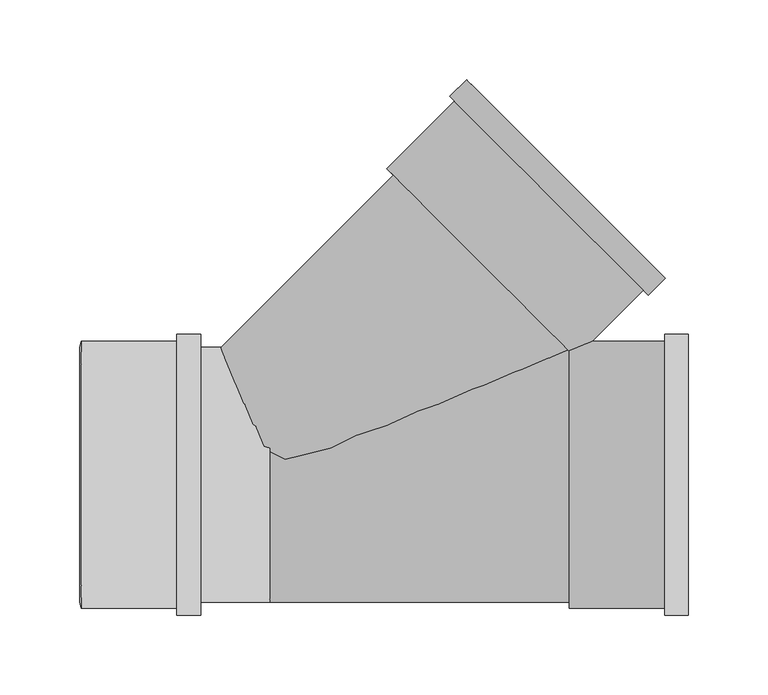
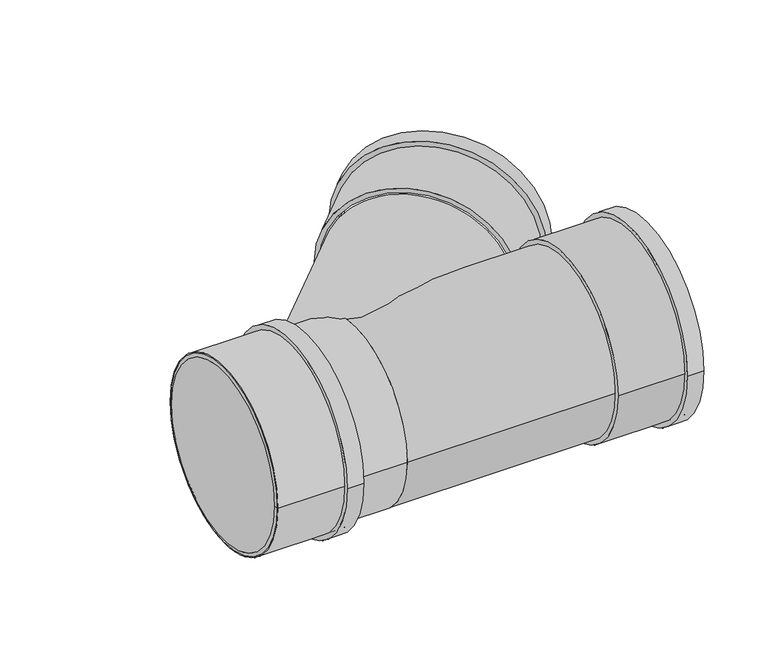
"""IFC4 building model written with IfcOpenShell, lengths in millimetres: pipe fitting geometry, Superdrain HTEA Branch : Superdrain HTEA Branch."""

from ifc_helpers import new_model, si_unit, point, frame, origin, origin_2d, place, context, project, spatial, polyline, circle_curve, trimmed, segment, composite_curve, outline, extrude, source, transform, mapped, element, save
from ifc_brep_helpers import plane_surface, cylinder_surface, revolved_surface, advanced_brep


def pipe_fitting_5896aef3(model_context):
    return source(origin(), model_context, "Body", "SolidModel", [
        extrude(outline(composite_curve([segment(trimmed(circle_curve(origin_2d(), 84.0), [point((84.0, 0.0))], [point((-84.0, 0.0))], False, "CARTESIAN"), True, "CONTINUOUS"), segment(trimmed(circle_curve(origin_2d(), 84.0), [point((-84.0, 0.0))], [point((84.0, 0.0))], False, "CARTESIAN"), True, "CONTINUOUS")], self_intersect=False), holes=[composite_curve([segment(trimmed(circle_curve(origin_2d(), 80.0), [point((80.0, 0.0))], [point((-80.0, 0.0))], True, "CARTESIAN"), True, "CONTINUOUS"), segment(trimmed(circle_curve(origin_2d(), 80.0), [point((-80.0, 0.0))], [point((80.0, 0.0))], True, "CARTESIAN"), True, "CONTINUOUS")], self_intersect=False)]), frame((-118.6, 0.0, 0.0), z_axis=(1.0, 0.0, 0.0), x_axis=(0.0, 1.0, 0.0)), (0.0, 0.0, 1.0), 75.0),
        extrude(outline(composite_curve([segment(trimmed(circle_curve(origin_2d(), 88.2), [point((88.2, 0.0))], [point((-88.2, 0.0))], False, "CARTESIAN"), True, "CONTINUOUS"), segment(trimmed(circle_curve(origin_2d(), 88.2), [point((-88.2, 0.0))], [point((88.2, 0.0))], False, "CARTESIAN"), True, "CONTINUOUS")], self_intersect=False), holes=[composite_curve([segment(trimmed(circle_curve(origin_2d(), 80.0), [point((80.0, 0.0))], [point((-80.0, 0.0))], True, "CARTESIAN"), True, "CONTINUOUS"), segment(trimmed(circle_curve(origin_2d(), 80.0), [point((-80.0, 0.0))], [point((80.0, 0.0))], True, "CARTESIAN"), True, "CONTINUOUS")], self_intersect=False)]), frame((-58.6, 0.0, 0.0), z_axis=(1.0, 0.0, 0.0), x_axis=(0.0, 1.0, 0.0)), (0.0, 0.0, 1.0), 15.0),
        advanced_brep(
        [(-119.6, 80.0, 0.0), (-119.6, -80.0, 0.0), (-118.6, 84.0, 0.0), (-118.6, -84.0, 0.0)],
        [
            (0, 1, circle_curve(frame((-119.6, 0.0, 0.0), z_axis=(-1.0, 0.0, 0.0), x_axis=(0.0, 1.0, 0.0)), 80.0)),
            (1, 0, circle_curve(frame((-119.6, 0.0, 0.0), z_axis=(-1.0, 0.0, 0.0), x_axis=(0.0, -1.0, 0.0)), 80.0)),
            (2, 3, circle_curve(frame((-118.6, 0.0, 0.0), z_axis=(1.0, 0.0, 0.0), x_axis=(0.0, -1.0, 0.0)), 84.0)),
            (3, 2, circle_curve(frame((-118.6, 0.0, 0.0), z_axis=(1.0, 0.0, 0.0), x_axis=(0.0, 1.0, 0.0)), 84.0)),
            (3, 1),
            (0, 2),
        ],
        [
            plane_surface(frame((-119.6, 0.0, 0.0), z_axis=(-1.0, 0.0, 0.0), x_axis=(0.0, 0.0, -1.0))),
            plane_surface(frame((-118.6, 0.0, 0.0), z_axis=(1.0, 0.0, 0.0), x_axis=(0.0, 0.0, -1.0))),
            revolved_surface(polyline([(-119.6, 80.0, 0.0), (-118.6, 84.0, 0.0)]), (-139.6, 0.0, 0.0), (1.0, 0.0, 0.0)),
            revolved_surface(polyline([(-119.6, -80.0, 0.0), (-118.6, -84.0, 0.0)]), (-139.6, 0.0, 0.0), (1.0, 0.0, 0.0)),
        ],
        [
            (0, [[1, 2]]),
            (1, [[3, 4]]),
            (2, [[-4, 5, -1, 6]]),
            (3, [[-3, -6, -2, -5]]),
        ],
    ),
        advanced_brep(
        [(187.9, -84.0, 0.0), (187.9, 84.0, 0.0), (262.9, -84.0, 0.0), (262.9, 84.0, 0.0), (262.9, -80.0, 0.0), (262.9, 80.0, 0.0), (188.9, -80.0, 0.0), (188.9, 80.0, 0.0)],
        [
            (0, 1, circle_curve(frame((187.9, 0.0, 0.0), z_axis=(-1.0, 0.0, 0.0), x_axis=(0.0, 1.0, 0.0)), 84.0)),
            (1, 0, circle_curve(frame((187.9, 0.0, 0.0), z_axis=(-1.0, 0.0, 0.0), x_axis=(0.0, 1.0, 0.0)), 84.0)),
            (2, 3, circle_curve(frame((262.9, 0.0, 0.0), z_axis=(1.0, 0.0, 0.0), x_axis=(0.0, 1.0, 0.0)), 84.0)),
            (3, 2, circle_curve(frame((262.9, 0.0, 0.0), z_axis=(1.0, 0.0, 0.0), x_axis=(0.0, 1.0, 0.0)), 84.0)),
            (4, 5, circle_curve(frame((262.9, 0.0, 0.0), z_axis=(-1.0, 0.0, 0.0), x_axis=(0.0, 1.0, 0.0)), 80.0)),
            (5, 4, circle_curve(frame((262.9, 0.0, 0.0), z_axis=(-1.0, 0.0, 0.0), x_axis=(0.0, 1.0, 0.0)), 80.0)),
            (0, 2),
            (3, 1),
            (6, 7, circle_curve(frame((188.9, 0.0, 0.0), z_axis=(-1.0, 0.0, 0.0), x_axis=(0.0, 1.0, 0.0)), 80.0)),
            (7, 5),
            (4, 6),
            (7, 6, circle_curve(frame((188.9, 0.0, 0.0), z_axis=(-1.0, 0.0, 0.0), x_axis=(0.0, 1.0, 0.0)), 80.0)),
        ],
        [
            plane_surface(frame((187.9, 0.0, 0.0), z_axis=(-1.0, 0.0, 0.0), x_axis=(0.0, 0.0, 1.0))),
            plane_surface(frame((262.9, 0.0, 0.0), z_axis=(1.0, 0.0, 0.0), x_axis=(0.0, 0.0, 1.0))),
            cylinder_surface(frame((187.9, 0.0, 0.0), z_axis=(-1.0, 0.0, 0.0), x_axis=(0.0, 1.0, 0.0)), 84.0),
            revolved_surface(polyline([(188.9, 80.0, 0.0), (262.9, 80.0, 0.0)]), (188.9, 0.0, 0.0), (-1.0, 0.0, 0.0)),
            plane_surface(frame((188.9, 0.0, 0.0), z_axis=(1.0, 0.0, 0.0), x_axis=(0.0, 0.0, 1.0))),
        ],
        [
            (0, [[1, 2]]),
            (1, [[3, 4], [5, 6]]),
            (2, [[-1, 7, -4, 8]]),
            (2, [[-2, -8, -3, -7]]),
            (3, [[9, 10, -5, 11]]),
            (3, [[12, -11, -6, -10]]),
            (4, [[-12, -9]]),
        ],
    ),
        extrude(outline(composite_curve([segment(trimmed(circle_curve(origin_2d(), 88.2), [point((88.2, 0.0))], [point((-88.2, 0.0))], False, "CARTESIAN"), True, "CONTINUOUS"), segment(trimmed(circle_curve(origin_2d(), 88.2), [point((-88.2, 0.0))], [point((88.2, 0.0))], False, "CARTESIAN"), True, "CONTINUOUS")], self_intersect=False), holes=[composite_curve([segment(trimmed(circle_curve(origin_2d(), 80.0), [point((80.0, 0.0))], [point((-80.0, 0.0))], True, "CARTESIAN"), True, "CONTINUOUS"), segment(trimmed(circle_curve(origin_2d(), 80.0), [point((-80.0, 0.0))], [point((80.0, 0.0))], True, "CARTESIAN"), True, "CONTINUOUS")], self_intersect=False)]), frame((247.9, 0.0, 0.0), z_axis=(1.0, 0.0, 0.0), x_axis=(0.0, 1.0, 0.0)), (0.0, 0.0, 1.0), 15.0),
        extrude(outline(composite_curve([segment(trimmed(circle_curve(origin_2d(), 78.4), [point((0.0, 78.3999999))], [point((0.0, -78.3999999))], False, "CARTESIAN"), True, "CONTINUOUS"), segment(trimmed(circle_curve(origin_2d(), 78.4), [point((0.0, -78.3999999))], [point((0.0, 78.3999999))], False, "CARTESIAN"), True, "CONTINUOUS")], self_intersect=False)), frame((0.0, 0.0, 0.0), z_axis=(0.7071067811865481, 0.7071067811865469, 0.0), x_axis=(0.0, 0.0, 1.0)), (0.0, 0.0, 1.0), 187.9),
        extrude(outline(composite_curve([segment(trimmed(circle_curve(origin_2d(), 80.0), [point((80.0, 0.0))], [point((-80.0, 0.0))], False, "CARTESIAN"), True, "CONTINUOUS"), segment(trimmed(circle_curve(origin_2d(), 80.0), [point((-80.0, 0.0))], [point((80.0, 0.0))], False, "CARTESIAN"), True, "CONTINUOUS")], self_intersect=False)), frame((-118.6, 0.0, 0.0), z_axis=(1.0, 0.0, 0.0), x_axis=(0.0, 1.0, 0.0)), (0.0, 0.0, 1.0), 118.6),
        extrude(outline(composite_curve([segment(trimmed(circle_curve(origin_2d(), 80.0), [point((-80.0, 0.0))], [point((80.0, 0.0))], False, "CARTESIAN"), True, "CONTINUOUS"), segment(trimmed(circle_curve(origin_2d(), 80.0), [point((80.0, 0.0))], [point((-80.0, 0.0))], False, "CARTESIAN"), True, "CONTINUOUS")], self_intersect=False)), frame((0.0, 0.0, 0.0), z_axis=(1.0, 0.0, 0.0), x_axis=(0.0, 1.0, 0.0)), (0.0, 0.0, 1.0), 187.9),
        extrude(outline(composite_curve([segment(trimmed(circle_curve(origin_2d(), 88.2), [point((0.0, 88.2))], [point((0.0, -88.2))], False, "CARTESIAN"), True, "CONTINUOUS"), segment(trimmed(circle_curve(origin_2d(), 88.2), [point((0.0, -88.2))], [point((0.0, 88.2))], False, "CARTESIAN"), True, "CONTINUOUS")], self_intersect=False), holes=[composite_curve([segment(trimmed(circle_curve(origin_2d(), 80.0), [point((0.0, 80.0))], [point((0.0, -80.0))], True, "CARTESIAN"), True, "CONTINUOUS"), segment(trimmed(circle_curve(origin_2d(), 80.0), [point((0.0, -80.0))], [point((0.0, 80.0))], True, "CARTESIAN"), True, "CONTINUOUS")], self_intersect=False)]), frame((175.2917711, 175.2917711, 0.0), z_axis=(0.7071067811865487, 0.7071067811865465, 0.0), x_axis=(0.0, 0.0, 1.0)), (0.0, 0.0, 1.0), 15.0),
        extrude(outline(composite_curve([segment(trimmed(circle_curve(origin_2d(), 84.0), [point((0.0, 84.0))], [point((0.0, -84.0))], False, "CARTESIAN"), True, "CONTINUOUS"), segment(trimmed(circle_curve(origin_2d(), 84.0), [point((0.0, -84.0))], [point((0.0, 84.0))], False, "CARTESIAN"), True, "CONTINUOUS")], self_intersect=False), holes=[composite_curve([segment(trimmed(circle_curve(origin_2d(), 80.0), [point((0.0, 80.0))], [point((0.0, -80.0))], True, "CARTESIAN"), True, "CONTINUOUS"), segment(trimmed(circle_curve(origin_2d(), 80.0), [point((0.0, -80.0))], [point((0.0, 80.0))], True, "CARTESIAN"), True, "CONTINUOUS")], self_intersect=False)]), frame((132.8653642, 132.8653642, 0.0), z_axis=(0.7071067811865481, 0.7071067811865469, 0.0), x_axis=(0.0, 0.0, 1.0)), (0.0, 0.0, 1.0), 75.0),
    ])


if __name__ == "__main__":
    model = new_model("IFC4")
    model_context = context("Model", 3, world=origin())
    ifc_project = project(units=[si_unit("LENGTHUNIT", "METRE", prefix="MILLI")], contexts=[model_context])
    site = spatial("IfcSite", under=ifc_project)
    building = spatial("IfcBuilding", under=site)
    placement = place(None, origin())
    pipe_fitting_shape = pipe_fitting_5896aef3(model_context)
    element("IfcPipeFitting", 1, ObjectType="Superdrain HTEA Branch : Superdrain HTEA Branch", at=placement, inside=building, context=model_context, shape_type="MappedRepresentation", body=[
        mapped(pipe_fitting_shape, transform((0.0, 0.0, 0.0), x_axis=(1.0, 0.0, 0.0), y_axis=(0.0, 1.0, 0.0), z_axis=(0.0, 0.0, 1.0))),
    ])
    save(model, "model.ifc")
